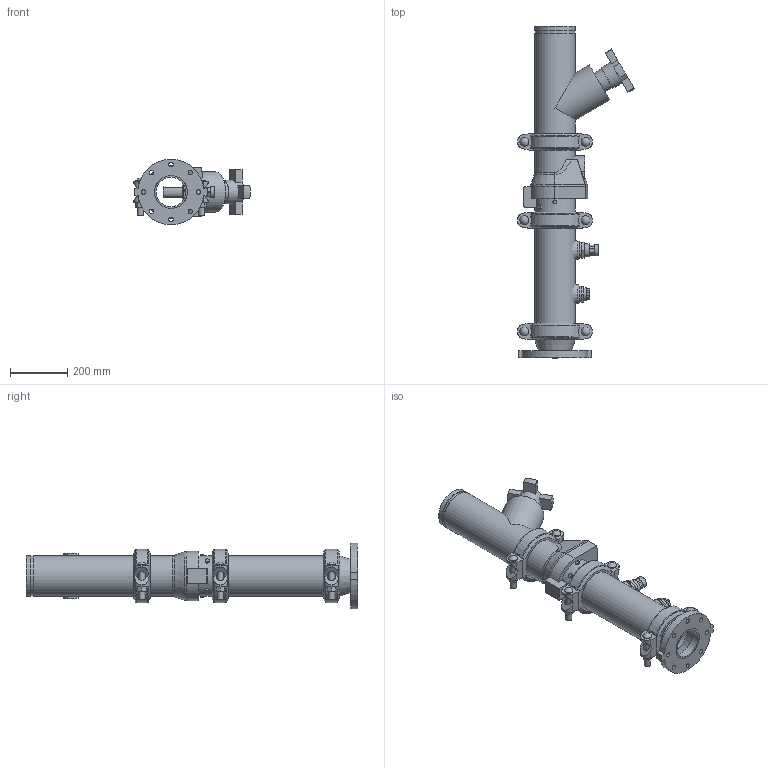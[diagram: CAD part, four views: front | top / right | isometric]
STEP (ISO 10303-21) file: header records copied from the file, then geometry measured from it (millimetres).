
FILE_DESCRIPTION(/* description */ ('VIC DVI PUMP DROP VERT S/383 (OGSxFLG) (S/924-0.75)','CAx-IF Rec.Pracs.---Representation and Presentation of Product Manufacturing Information (PMI)---4.0---2014-10-13'),/* implementation_level */ '2;1');
FILE_NAME(/* name */ 'C:\Users\Public\Documents\Victaulic.Temp\A849\Victaulic_IPS_Vertical DVI_CL 150_Series 383 (OGSxFLG)_924 (0.75)_05.0x04.0 (125x100).stp',/* time_stamp */ '2022-07-25T11:39:46+02:00',/* author */ ('Vjadhav'),/* organization */ ('Victaulic'),/* preprocessor_version */ 'ST-DEVELOPER v18',/* originating_system */ 'Autodesk Inventor 2020',/* authorisation */ '');
FILE_SCHEMA (('AP242_MANAGED_MODEL_BASED_3D_ENGINEERING_MIM_LF { 1 0 10303 442 1 1 4 }'));
Length unit declared in the file: inch
Products named in the file (9): 383_924 (0.75)-05.0x04.0; 741-04.0; 050-05.0x04.0; Pipe-05.0; 177N-05.0; 789-05.0; 779-05.0; 924-04.0x0.75; 923-04.0x0.75
Assembly tree (10 placements, depth 2):
  383_924 (0.75)-05.0x04.0
    741-04.0
    050-05.0x04.0
    177N-05.0  x3
    Pipe-05.0
    789-05.0
    779-05.0
    924-04.0x0.75
    923-04.0x0.75
Bounding box: 406.02 x 1155.7 x 227.76 mm (x, y, z)
Volume: 10669685.2 mm3; surface area: 1686949 mm2
Topology: 10 solids, 10 shells, 534 faces, 1439 edges, 962 vertices
Faces by surface type: plane 310, cylinder 179, cone 19, torus 18, sphere 6, bspline 2
Full cylindrical faces by diameter (mm): 13.716 x4, 15.875 x8, 21.209 x6, 26.67 x2, 30.48 x6, 38.608 x1, 45.974 x4, 55.626 x2, 75.26 x1, 82.55 x1, 102.26 x1, 110.084 x1, 114.3 x3, 128.194 x4, 128.6 x3, 137.033 x7, 141.3 x19
Entity records: 12177 total; most frequent: CARTESIAN_POINT 2471, DIRECTION 1996, ORIENTED_EDGE 1826, EDGE_CURVE 913, AXIS2_PLACEMENT_3D 761, VERTEX_POINT 618, LINE 474, VECTOR 474
